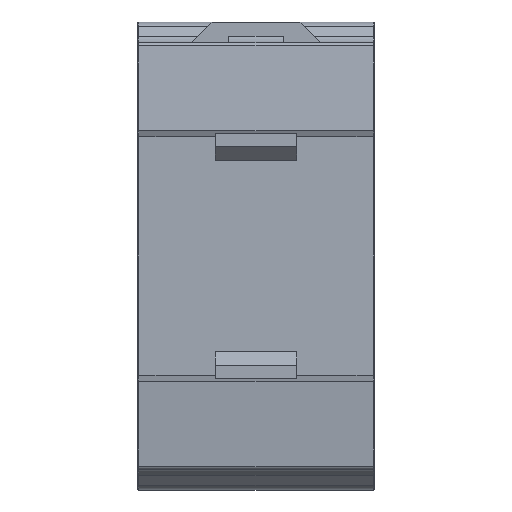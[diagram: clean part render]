
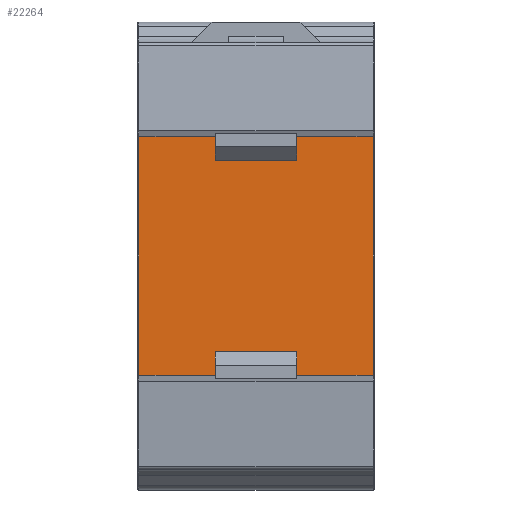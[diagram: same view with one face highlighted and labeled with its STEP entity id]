
A CAD part, front view. The second image highlights one B-rep face of the part: STEP entity #22264.
In plain terms, the highlighted planar face has unit normal (0, -1, 0).
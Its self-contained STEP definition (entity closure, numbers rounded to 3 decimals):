
#253 = CARTESIAN_POINT ( 'NONE',  ( 17.3, 0., -17.65 ) ) ;
#766 = DIRECTION ( 'NONE',  ( -1., 0., 0. ) ) ;
#1247 = ORIENTED_EDGE ( 'NONE', *, *, #25784, .F. ) ;
#1279 = DIRECTION ( 'NONE',  ( 0., 0., 1. ) ) ;
#1352 = EDGE_CURVE ( 'NONE', #14552, #15464, #9029, .T. ) ;
#1435 = CARTESIAN_POINT ( 'NONE',  ( -6., 0., 17.65 ) ) ;
#2489 = VERTEX_POINT ( 'NONE', #26787 ) ;
#2741 = LINE ( 'NONE', #8485, #7703 ) ;
#2963 = CARTESIAN_POINT ( 'NONE',  ( -6., 0., -16.15 ) ) ;
#3018 = EDGE_CURVE ( 'NONE', #5522, #8850, #15074, .T. ) ;
#3068 = CARTESIAN_POINT ( 'NONE',  ( 6., 0., 17.65 ) ) ;
#3465 = LINE ( 'NONE', #14179, #13958 ) ;
#3468 = EDGE_CURVE ( 'NONE', #23737, #2489, #9688, .T. ) ;
#3732 = DIRECTION ( 'NONE',  ( 0., 0., 1. ) ) ;
#4006 = VECTOR ( 'NONE', #6126, 1000. ) ;
#4174 = EDGE_CURVE ( 'NONE', #5522, #2489, #12538, .T. ) ;
#4296 = FACE_OUTER_BOUND ( 'NONE', #19779, .T. ) ;
#5144 = EDGE_CURVE ( 'NONE', #15985, #8162, #8212, .T. ) ;
#5522 = VERTEX_POINT ( 'NONE', #12058 ) ;
#5534 = EDGE_CURVE ( 'NONE', #8183, #21540, #3465, .T. ) ;
#5619 = ORIENTED_EDGE ( 'NONE', *, *, #23529, .T. ) ;
#6126 = DIRECTION ( 'NONE',  ( -1., 0., 0. ) ) ;
#6264 = EDGE_CURVE ( 'NONE', #21540, #15464, #2741, .T. ) ;
#6657 = ORIENTED_EDGE ( 'NONE', *, *, #6264, .T. ) ;
#6785 = CARTESIAN_POINT ( 'NONE',  ( 17.5, 0., 17.65 ) ) ;
#6990 = VECTOR ( 'NONE', #24726, 1000. ) ;
#7042 = CARTESIAN_POINT ( 'NONE',  ( -6., 0., -17.65 ) ) ;
#7349 = VECTOR ( 'NONE', #16078, 1000. ) ;
#7497 = ORIENTED_EDGE ( 'NONE', *, *, #1352, .F. ) ;
#7575 = VECTOR ( 'NONE', #1279, 1000. ) ;
#7703 = VECTOR ( 'NONE', #16988, 1000. ) ;
#7713 = ORIENTED_EDGE ( 'NONE', *, *, #3018, .T. ) ;
#7780 = CARTESIAN_POINT ( 'NONE',  ( 17.3, 0., 17.65 ) ) ;
#8148 = LINE ( 'NONE', #23713, #24217 ) ;
#8162 = VERTEX_POINT ( 'NONE', #17225 ) ;
#8183 = VERTEX_POINT ( 'NONE', #253 ) ;
#8212 = LINE ( 'NONE', #26467, #7575 ) ;
#8485 = CARTESIAN_POINT ( 'NONE',  ( 17.5, 0., 17.65 ) ) ;
#8634 = DIRECTION ( 'NONE',  ( -1., 0., 0. ) ) ;
#8850 = VERTEX_POINT ( 'NONE', #2963 ) ;
#9029 = LINE ( 'NONE', #13315, #25113 ) ;
#9292 = CARTESIAN_POINT ( 'NONE',  ( -6., 0., 17.65 ) ) ;
#9688 = LINE ( 'NONE', #24546, #15879 ) ;
#10632 = CARTESIAN_POINT ( 'NONE',  ( 6., 0., -16.15 ) ) ;
#11177 = DIRECTION ( 'NONE',  ( 0., 0., 1. ) ) ;
#11280 = CARTESIAN_POINT ( 'NONE',  ( 6., 0., -17.65 ) ) ;
#11720 = CARTESIAN_POINT ( 'NONE',  ( 17.5, 0., 17.65 ) ) ;
#12058 = CARTESIAN_POINT ( 'NONE',  ( -6., 0., -17.65 ) ) ;
#12538 = LINE ( 'NONE', #16164, #6990 ) ;
#13315 = CARTESIAN_POINT ( 'NONE',  ( 6., 0., 17.65 ) ) ;
#13841 = PLANE ( 'NONE',  #14039 ) ;
#13958 = VECTOR ( 'NONE', #3732, 1000. ) ;
#14039 = AXIS2_PLACEMENT_3D ( 'NONE', #11720, #19929, #15939 ) ;
#14072 = DIRECTION ( 'NONE',  ( 0., 0., -1. ) ) ;
#14147 = CARTESIAN_POINT ( 'NONE',  ( -17.3, 0., 17.65 ) ) ;
#14179 = CARTESIAN_POINT ( 'NONE',  ( 17.3, 0., 17.65 ) ) ;
#14552 = VERTEX_POINT ( 'NONE', #22641 ) ;
#14769 = VECTOR ( 'NONE', #8634, 1000. ) ;
#15074 = LINE ( 'NONE', #7042, #24984 ) ;
#15177 = ORIENTED_EDGE ( 'NONE', *, *, #4174, .F. ) ;
#15464 = VERTEX_POINT ( 'NONE', #3068 ) ;
#15879 = VECTOR ( 'NONE', #14072, 1000. ) ;
#15939 = DIRECTION ( 'NONE',  ( 0., 0., 1. ) ) ;
#15985 = VERTEX_POINT ( 'NONE', #11280 ) ;
#16013 = VERTEX_POINT ( 'NONE', #9292 ) ;
#16078 = DIRECTION ( 'NONE',  ( 0., 0., 1. ) ) ;
#16080 = LINE ( 'NONE', #10632, #14769 ) ;
#16164 = CARTESIAN_POINT ( 'NONE',  ( 17.5, 0., -17.65 ) ) ;
#16471 = ORIENTED_EDGE ( 'NONE', *, *, #5144, .F. ) ;
#16530 = EDGE_CURVE ( 'NONE', #16013, #23737, #16847, .T. ) ;
#16847 = LINE ( 'NONE', #6785, #17522 ) ;
#16877 = ORIENTED_EDGE ( 'NONE', *, *, #5534, .T. ) ;
#16988 = DIRECTION ( 'NONE',  ( -1., 0., 0. ) ) ;
#17225 = CARTESIAN_POINT ( 'NONE',  ( 6., 0., -16.15 ) ) ;
#17227 = DIRECTION ( 'NONE',  ( -1., 0., 0. ) ) ;
#17522 = VECTOR ( 'NONE', #17227, 1000. ) ;
#17788 = EDGE_CURVE ( 'NONE', #8162, #8850, #16080, .T. ) ;
#18162 = ORIENTED_EDGE ( 'NONE', *, *, #16530, .T. ) ;
#19114 = ORIENTED_EDGE ( 'NONE', *, *, #21463, .T. ) ;
#19135 = ORIENTED_EDGE ( 'NONE', *, *, #3468, .T. ) ;
#19426 = CARTESIAN_POINT ( 'NONE',  ( 17.5, 0., -17.65 ) ) ;
#19530 = CARTESIAN_POINT ( 'NONE',  ( -6., 0., 16.15 ) ) ;
#19779 = EDGE_LOOP ( 'NONE', ( #16471, #1247, #16877, #6657, #7497, #5619, #19114, #18162, #19135, #15177, #7713, #20002 ) ) ;
#19929 = DIRECTION ( 'NONE',  ( 0., 1., 0. ) ) ;
#20002 = ORIENTED_EDGE ( 'NONE', *, *, #17788, .F. ) ;
#21463 = EDGE_CURVE ( 'NONE', #22711, #16013, #23399, .T. ) ;
#21540 = VERTEX_POINT ( 'NONE', #7780 ) ;
#22264 = ADVANCED_FACE ( 'NONE', ( #4296 ), #13841, .F. ) ;
#22641 = CARTESIAN_POINT ( 'NONE',  ( 6., 0., 16.15 ) ) ;
#22711 = VERTEX_POINT ( 'NONE', #19530 ) ;
#23399 = LINE ( 'NONE', #1435, #7349 ) ;
#23529 = EDGE_CURVE ( 'NONE', #14552, #22711, #8148, .T. ) ;
#23713 = CARTESIAN_POINT ( 'NONE',  ( 6., 0., 16.15 ) ) ;
#23737 = VERTEX_POINT ( 'NONE', #14147 ) ;
#24217 = VECTOR ( 'NONE', #766, 1000. ) ;
#24546 = CARTESIAN_POINT ( 'NONE',  ( -17.3, 0., 17.65 ) ) ;
#24726 = DIRECTION ( 'NONE',  ( -1., 0., 0. ) ) ;
#24984 = VECTOR ( 'NONE', #25942, 1000. ) ;
#25113 = VECTOR ( 'NONE', #11177, 1000. ) ;
#25784 = EDGE_CURVE ( 'NONE', #8183, #15985, #26366, .T. ) ;
#25942 = DIRECTION ( 'NONE',  ( 0., 0., 1. ) ) ;
#26366 = LINE ( 'NONE', #19426, #4006 ) ;
#26467 = CARTESIAN_POINT ( 'NONE',  ( 6., 0., -17.65 ) ) ;
#26787 = CARTESIAN_POINT ( 'NONE',  ( -17.3, 0., -17.65 ) ) ;
